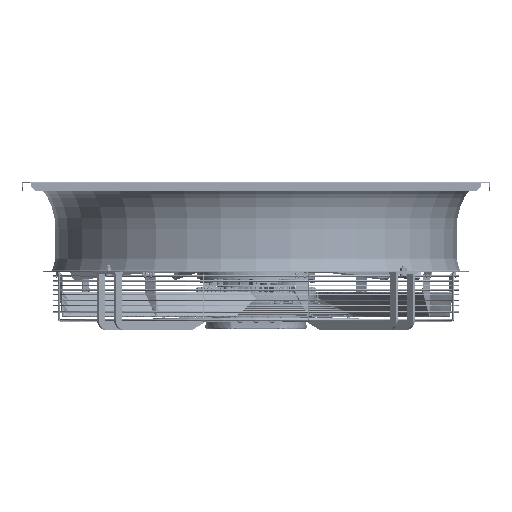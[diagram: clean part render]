
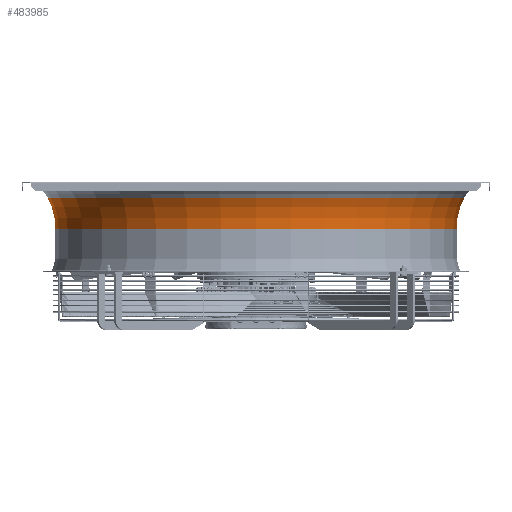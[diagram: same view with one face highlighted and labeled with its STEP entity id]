
A CAD part, front view. The second image highlights one B-rep face of the part: STEP entity #483985.
In plain terms, the highlighted toroidal (fillet/blend) face has major radius 606.5 mm and minor radius 148 mm.
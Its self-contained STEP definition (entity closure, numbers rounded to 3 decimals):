
#6936 = CARTESIAN_POINT ( 'NONE',  ( -606.5, 0., 99.281 ) ) ;
#13245 = DIRECTION ( 'NONE',  ( 0., 0., -1. ) ) ;
#48909 = CIRCLE ( 'NONE', #367493, 458.5 ) ;
#53102 = VERTEX_POINT ( 'NONE', #140814 ) ;
#61289 = ORIENTED_EDGE ( 'NONE', *, *, #493017, .T. ) ;
#65031 = DIRECTION ( 'NONE',  ( 0., 0., -1. ) ) ;
#75763 = VERTEX_POINT ( 'NONE', #534343 ) ;
#89841 = CIRCLE ( 'NONE', #172157, 148. ) ;
#95650 = CARTESIAN_POINT ( 'NONE',  ( 0., 0., 170.025 ) ) ;
#110408 = CARTESIAN_POINT ( 'NONE',  ( 606.5, 0., 99.281 ) ) ;
#114033 = ORIENTED_EDGE ( 'NONE', *, *, #284334, .F. ) ;
#123069 = AXIS2_PLACEMENT_3D ( 'NONE', #110408, #315784, #278682 ) ;
#124720 = VERTEX_POINT ( 'NONE', #525027 ) ;
#127930 = DIRECTION ( 'NONE',  ( -1., 0., 0. ) ) ;
#140814 = CARTESIAN_POINT ( 'NONE',  ( -458.5, 0., 99.281 ) ) ;
#172157 = AXIS2_PLACEMENT_3D ( 'NONE', #6936, #445745, #354575 ) ;
#193350 = FACE_OUTER_BOUND ( 'NONE', #560835, .T. ) ;
#196580 = ORIENTED_EDGE ( 'NONE', *, *, #484650, .F. ) ;
#252900 = VERTEX_POINT ( 'NONE', #536625 ) ;
#269514 = DIRECTION ( 'NONE',  ( 0., 0., -1. ) ) ;
#273284 = CARTESIAN_POINT ( 'NONE',  ( 0., 0., 99.281 ) ) ;
#278682 = DIRECTION ( 'NONE',  ( -1., 0., 0. ) ) ;
#284334 = EDGE_CURVE ( 'NONE', #252900, #53102, #48909, .T. ) ;
#296008 = CIRCLE ( 'NONE', #123069, 148. ) ;
#315784 = DIRECTION ( 'NONE',  ( 0., 1., 0. ) ) ;
#318260 = EDGE_CURVE ( 'NONE', #252900, #75763, #296008, .T. ) ;
#343116 = CIRCLE ( 'NONE', #415930, 476.503 ) ;
#354575 = DIRECTION ( 'NONE',  ( 0., 0., -1. ) ) ;
#360900 = DIRECTION ( 'NONE',  ( -1., 0., 0. ) ) ;
#367493 = AXIS2_PLACEMENT_3D ( 'NONE', #553954, #13245, #360900 ) ;
#415930 = AXIS2_PLACEMENT_3D ( 'NONE', #95650, #269514, #127930 ) ;
#430103 = ORIENTED_EDGE ( 'NONE', *, *, #318260, .T. ) ;
#445745 = DIRECTION ( 'NONE',  ( 0., -1., 0. ) ) ;
#473276 = TOROIDAL_SURFACE ( 'NONE', #500494, 606.5, 148. ) ;
#483985 = ADVANCED_FACE ( 'NONE', ( #193350 ), #473276, .F. ) ;
#484650 = EDGE_CURVE ( 'NONE', #53102, #124720, #89841, .T. ) ;
#493017 = EDGE_CURVE ( 'NONE', #75763, #124720, #343116, .T. ) ;
#500494 = AXIS2_PLACEMENT_3D ( 'NONE', #273284, #65031, #532739 ) ;
#525027 = CARTESIAN_POINT ( 'NONE',  ( -476.503, 0., 170.025 ) ) ;
#532739 = DIRECTION ( 'NONE',  ( -1., 0., 0. ) ) ;
#534343 = CARTESIAN_POINT ( 'NONE',  ( 476.503, 0., 170.025 ) ) ;
#536625 = CARTESIAN_POINT ( 'NONE',  ( 458.5, 0., 99.281 ) ) ;
#553954 = CARTESIAN_POINT ( 'NONE',  ( 0., 0., 99.281 ) ) ;
#560835 = EDGE_LOOP ( 'NONE', ( #114033, #430103, #61289, #196580 ) ) ;
